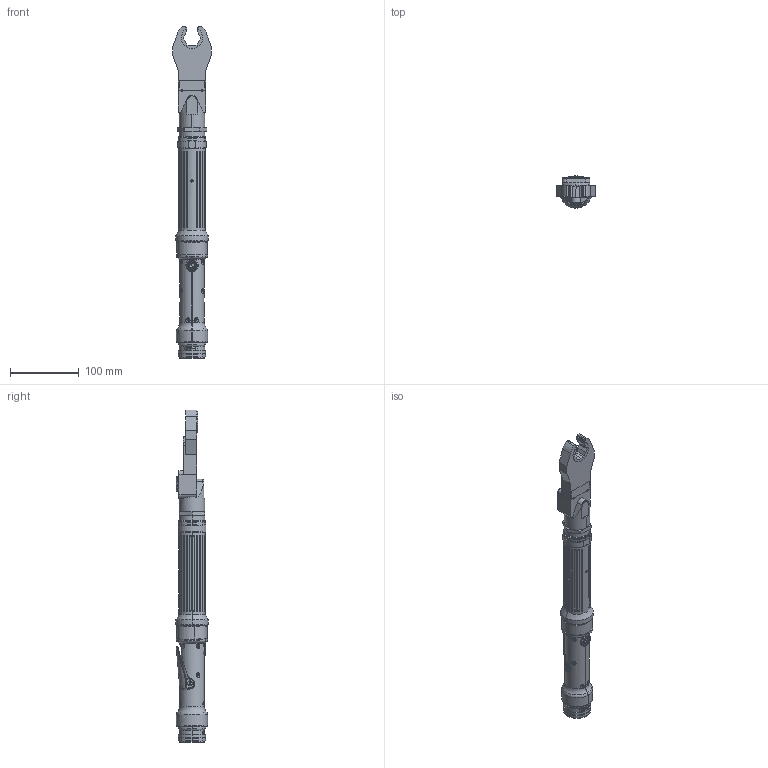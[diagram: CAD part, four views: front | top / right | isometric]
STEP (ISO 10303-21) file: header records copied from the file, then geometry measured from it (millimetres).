
FILE_DESCRIPTION (( 'STEP AP214' ), '1' );
FILE_NAME ('AET32035C.STEP', '2016-04-19T21:24:10', ( 'AIMCO' ), ( '' ), 'SwSTEP 2.0', 'SolidWorks 2016', '' );
FILE_SCHEMA (( 'AUTOMOTIVE_DESIGN' ));
Length unit declared in the file: inch
Products named in the file (1): AET32035C
Bounding box: 56 x 46.99 x 482.86 mm (x, y, z)
Surface area: 92135.8 mm2 (no closed solid volume)
Topology: 0 solids, 95 shells, 892 faces, 3197 edges, 2291 vertices
Faces by surface type: plane 236, cylinder 210, cone 141, bspline 139, torus 124, sphere 42
Entity records: 62799 total; most frequent: CARTESIAN_POINT 26879, ORIENTED_EDGE 4763, DIRECTION 4454, EDGE_CURVE 3117, VERTEX_POINT 2251, AXIS2_PLACEMENT_3D 1731, B_SPLINE_CURVE_WITH_KNOTS 1103, EDGE_LOOP 1039
